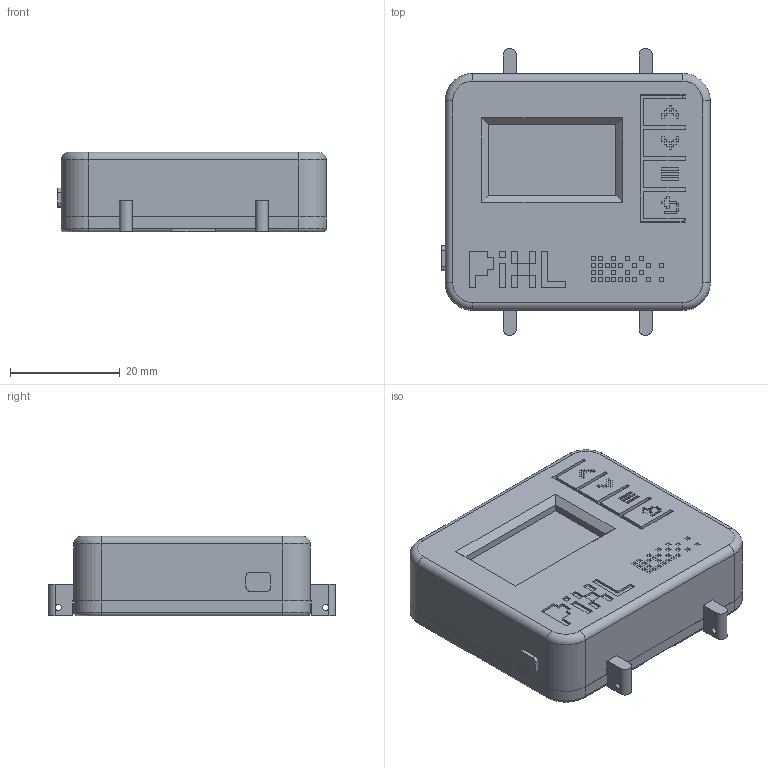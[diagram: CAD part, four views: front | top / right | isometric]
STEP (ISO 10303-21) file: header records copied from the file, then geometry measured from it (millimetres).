
FILE_DESCRIPTION(/* description */ (''),/* implementation_level */ '2;1');
FILE_NAME(/* name */ 'PIXL_case_v11_22mm_assembly.step',/* time_stamp */ '2026-11-09T18:39:07+01:00',/* author */ (''),/* organization */ (''),/* preprocessor_version */ 'ST-DEVELOPER v20.2',/* originating_system */ 'Autodesk Translation Framework v15.17.0.0',/* authorisation */ '');
FILE_SCHEMA (('AUTOMOTIVE_DESIGN { 1 0 10303 214 3 1 1 }'));
Length unit declared in the file: millimetre
Products named in the file (5): PIXL case; 0.96Oled_W_4_Buttons; PIXL Shell v11 22mm; PIXL Back v11 22mm; Internals v11 (reference)
Assembly tree (4 placements, depth 2):
  PIXL case
    0.96Oled_W_4_Buttons
    PIXL Shell v11 22mm
    PIXL Back v11 22mm
    Internals v11 (reference)
Bounding box: 49 x 52.4 x 14.5 mm (x, y, z)
Volume: 18193 mm3; surface area: 21448.8 mm2
Topology: 10 solids, 10 shells, 1540 faces, 3995 edges, 2608 vertices
Faces by surface type: plane 1033, bspline 404, cylinder 94, torus 8, cone 1
Full cylindrical faces by diameter (mm): 1.1 x4, 1.6 x3, 2 x4, 2.4 x8, 3 x4, 10 x1, 20 x1, 20.6 x1
Entity records: 50405 total; most frequent: CARTESIAN_POINT 15020, ORIENTED_EDGE 7990, DIRECTION 5683, EDGE_CURVE 3995, LINE 2981, VECTOR 2981, VERTEX_POINT 2608, EDGE_LOOP 1701
